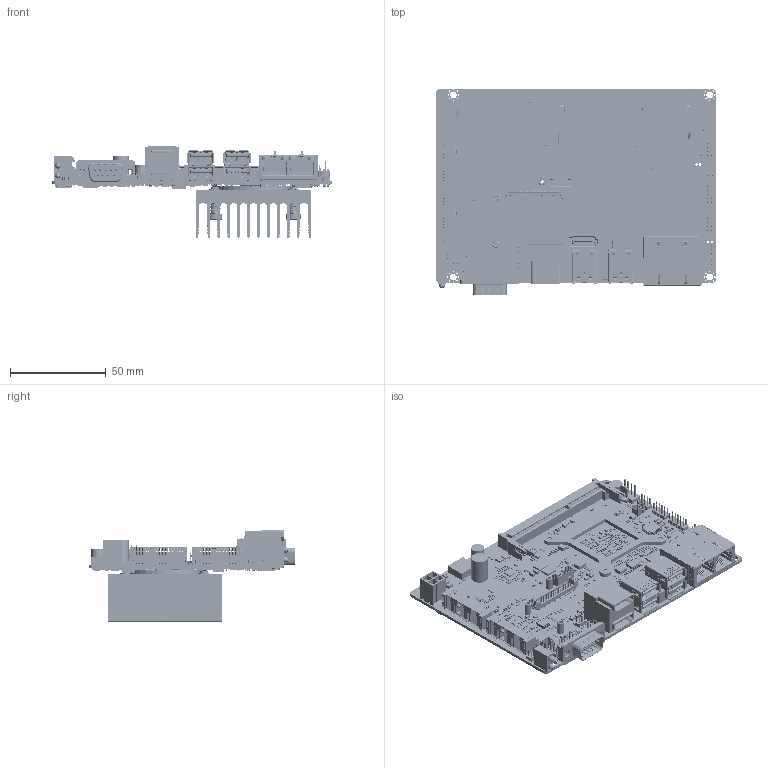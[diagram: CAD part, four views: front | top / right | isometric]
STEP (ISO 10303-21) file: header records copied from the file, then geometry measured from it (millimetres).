
FILE_DESCRIPTION((''),'2;1');
FILE_NAME('ECM-APL2-B1_M_ASM','2020-07-08T13:25:55',('jamie_liao'),(''),'CREO PARAMETRIC BY PTC INC, 2017110','CREO PARAMETRIC BY PTC INC, 2017110','');
FILE_SCHEMA(('CONFIG_CONTROL_DESIGN','GEOMETRIC_VALIDATION_PROPERTIES_MIM'));
Products named in the file (111): ECM-APL2-B1_M; E14S3820700H; E1652528305R; E1752500004H; E1613310000R; E1662520207R; E14S5930600H; E14S4348700H; E1613320001R; E1305063040H; E1183627731H; E1181656721H; E14S3019800H; E14S3122000H; E14S3360100H; E14S3506900H; E121220222EH; E1315090810H; E1212206811H; E1662510201H; E1315065410H; E1315833310H; E1315546810H; E1315832110H; E1315832710H; E1301034041H; E10187005CXH; E1667220301R; A-C1206; E1613420000R; E1613520001R; E1752500003H; E16E0096100R; E1213009005H; E1213006702H; E1213008000H; E16C4070000H; E1672620202R; E123130256CH; E14S5F10700H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
Assembly tree (1431 placements, depth 5):
  ECM-APL2-B1_M_ASM
    ECM-APL2-B1_M
    E14S3820700H
    E1652528305R
    E1752500004H
    E1613310000R  x4
    E1662520207R
    E14S5930600H
    E14S4348700H
    E1613320001R  x2
    E1305063040H
    E1183627731H
    E1181656721H
    E14S3019800H
    E14S3122000H
    E14S3360100H  x2
    E14S3506900H
    E121220222EH
    E1315090810H
    E1212206811H
    E1662510201H
    E1315065410H
    E1315833310H  x3
    E1315546810H  x2
    E1315832110H  x3
    E1315832710H  x3
    E1301034041H
    E10187005CXH
    E1667220301R
    A-C1206  x21
    E1613420000R
    E1613520001R
    E1752500003H
    E16E0096100R
    E1213009005H  x18
    E1213006702H  x4
    E1213008000H  x4
    E16C4070000H
    E1672620202R
    E123130256CH  x2
    E14S5F10700H
    E14S4751101H
    E118X633760H  x2
    E14S4930601H  x2
    E16F1038031R
    E14S3204300H
    E14S3520900H  x3
    E1613620000R  x2
    E16D5I00301R  x2
    E1060708221H  x6
    E14S4021100H  x2
    E14S4852801H
    E1183610723H
    E1660210201H
    E1613520000R  x3
    E1304400003H
    E1662210201H  x2
    E1655004006R
    E1301581741H  x2
    E14S3233000H  x2
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Bounding box: 146.05 x 108 x 47.98 mm (x, y, z)
Volume: 96754.2 mm3; surface area: 135697 mm2
Topology: 1528 solids, 1547 shells, 37717 faces, 102404 edges, 67211 vertices
Faces by surface type: plane 30546, cylinder 6541, bspline 356, cone 118, torus 91, sphere 51, extrusion 14
Entity records: 901030 total; most frequent: CARTESIAN_POINT 168031, ORIENTED_EDGE 146163, DIRECTION 136363, EDGE_CURVE 73140, VECTOR 58939, LINE 58929, VERTEX_POINT 48185, AXIS2_PLACEMENT_3D 38712
